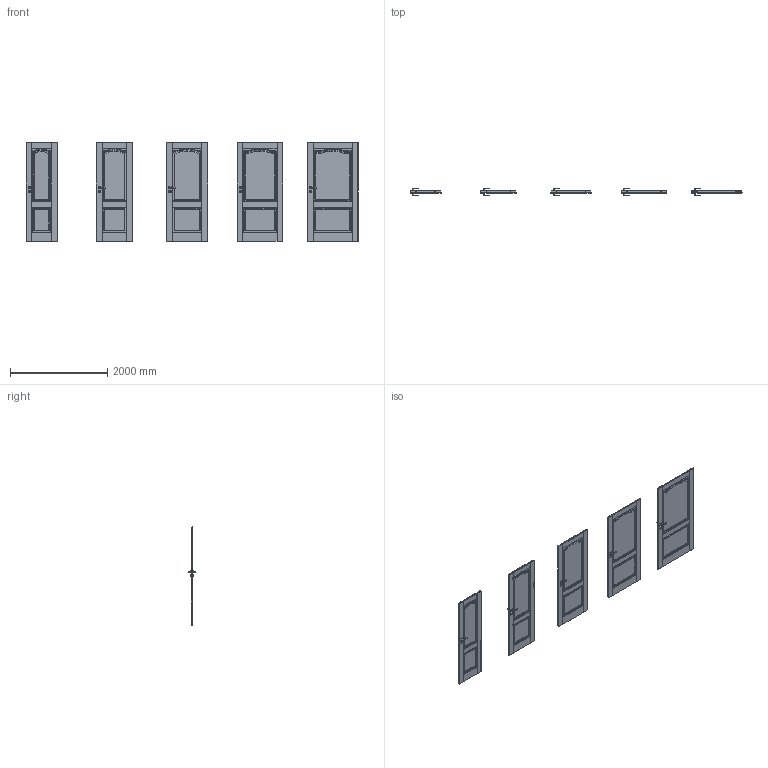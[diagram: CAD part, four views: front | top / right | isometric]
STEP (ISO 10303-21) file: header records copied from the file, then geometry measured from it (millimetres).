
FILE_DESCRIPTION(/* description */ (''),/* implementation_level */ '2;1');
FILE_NAME(/* name */ '050257_A_2-Skrzydło MADRYT model pełne_ polska norma _PN__ przylgowe..stp',/* time_stamp */ '2025-01-24T10:23:40+01:00',/* author */ (''),/* organization */ (''),/* preprocessor_version */ 'ST-DEVELOPER v16',/* originating_system */ 'SIEMENS PLM Software NX 11.0',/* authorisation */ '');
FILE_SCHEMA (('AUTOMOTIVE_DESIGN { 1 0 10303 214 3 1 1 1 }'));
Products named in the file (1): bkni4B487472kzi4
Bounding box: 6844 x 153.13 x 2030 mm (x, y, z)
Volume: 222747633.5 mm3; surface area: 30385661.7 mm2
Topology: 120 solids, 120 shells, 4994 faces, 12641 edges, 7774 vertices
Faces by surface type: plane 2311, cylinder 1539, bspline 1004, sphere 140
Entity records: 168590 total; most frequent: CARTESIAN_POINT 58025, ORIENTED_EDGE 25002, DIRECTION 19543, EDGE_CURVE 12501, VERTEX_POINT 7774, LINE 7559, VECTOR 7559, AXIS2_PLACEMENT_3D 5992
